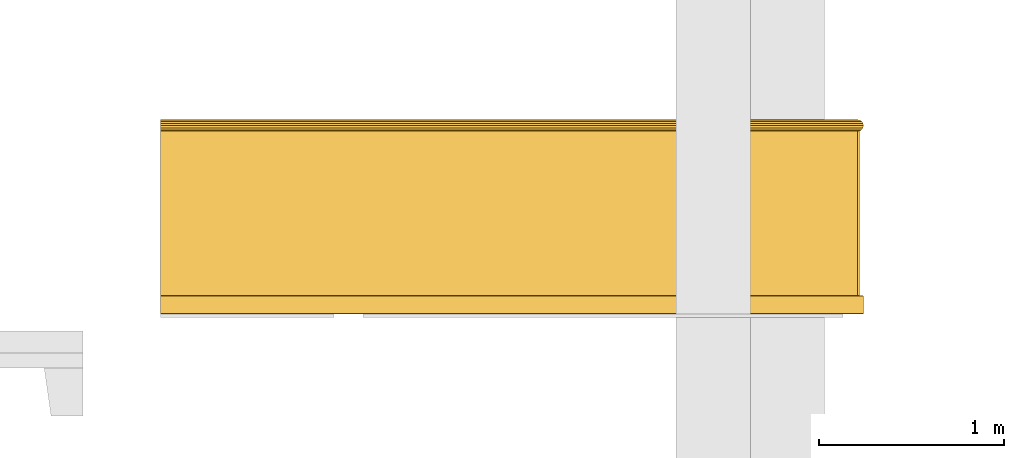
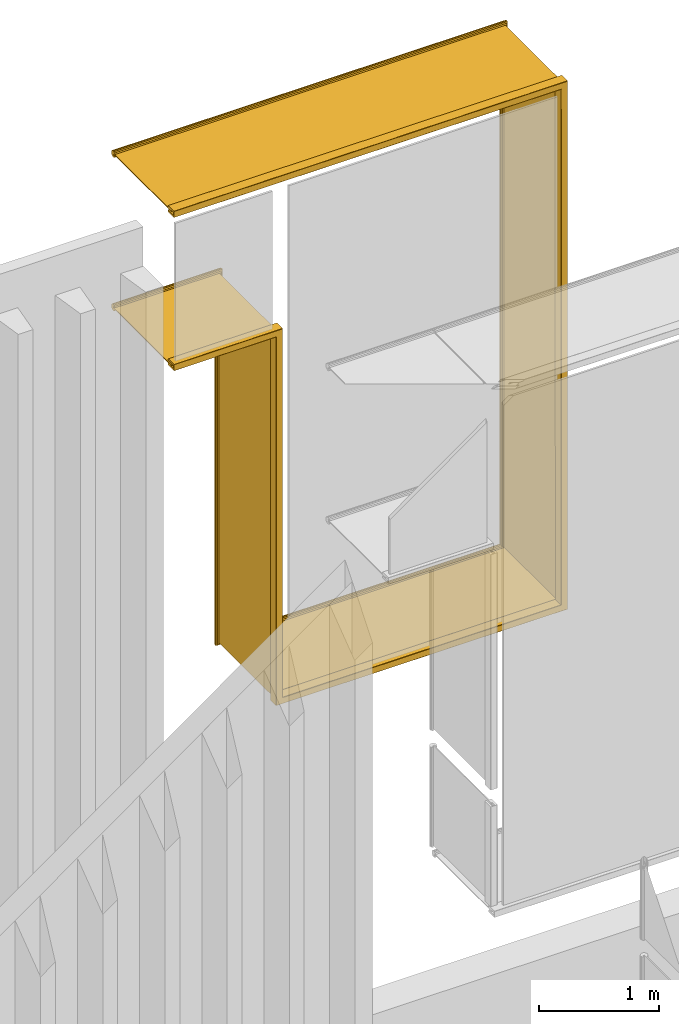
# One storey, part 11 of 15: 1 railing.
"""IFC2X3 building model written with IfcOpenShell, lengths in metres."""

from ifc_helpers import new_model, entity, si_unit, converted_unit, derived_unit, money_unit, direction, frame, origin_with_axes, place, context, subcontext, project, spatial, faceted_brep, material, type_object, element, save


model = new_model("IFC2X3")

# Units and contexts
model_context = context("Model", 3, precision=1e-05, world=origin_with_axes(), true_north=direction((0.0, 1.0)))
body_context = subcontext(model_context, "Body", "Model", "MODEL_VIEW", scale=1.0)
ifc_project = project(units=[si_unit("LENGTHUNIT", "METRE"), si_unit("AREAUNIT", "SQUARE_METRE"), si_unit("VOLUMEUNIT", "CUBIC_METRE"), si_unit("ABSORBEDDOSEUNIT", "GRAY"), si_unit("AMOUNTOFSUBSTANCEUNIT", "MOLE"), si_unit("DOSEEQUIVALENTUNIT", "SIEVERT"), si_unit("ELECTRICCAPACITANCEUNIT", "FARAD"), si_unit("ELECTRICCHARGEUNIT", "COULOMB"), si_unit("ELECTRICCONDUCTANCEUNIT", "SIEMENS"), si_unit("ELECTRICCURRENTUNIT", "AMPERE"), si_unit("ELECTRICRESISTANCEUNIT", "OHM"), si_unit("ELECTRICVOLTAGEUNIT", "VOLT"), si_unit("ENERGYUNIT", "JOULE"), si_unit("FORCEUNIT", "NEWTON"), si_unit("FREQUENCYUNIT", "HERTZ"), si_unit("ILLUMINANCEUNIT", "LUX"), si_unit("INDUCTANCEUNIT", "HENRY"), si_unit("LUMINOUSFLUXUNIT", "LUMEN"), si_unit("LUMINOUSINTENSITYUNIT", "CANDELA"), si_unit("MAGNETICFLUXDENSITYUNIT", "TESLA"), si_unit("MAGNETICFLUXUNIT", "WEBER"), si_unit("MASSUNIT", "GRAM"), converted_unit("PLANEANGLEUNIT", "degree", entity("IfcReal", 0.0174532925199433), si_unit("PLANEANGLEUNIT", "RADIAN"), dimensions=[0, 0, 0, 0, 0, 0, 0]), si_unit("POWERUNIT", "WATT"), si_unit("PRESSUREUNIT", "PASCAL"), si_unit("RADIOACTIVITYUNIT", "BECQUEREL"), si_unit("SOLIDANGLEUNIT", "STERADIAN"), si_unit("THERMODYNAMICTEMPERATUREUNIT", "KELVIN"), si_unit("TIMEUNIT", "SECOND"), derived_unit("ACCELERATIONUNIT", [(si_unit("LENGTHUNIT", "METRE"), 1), (si_unit("TIMEUNIT", "SECOND"), -2)]), derived_unit("ANGULARVELOCITYUNIT", [(converted_unit("PLANEANGLEUNIT", "degree", entity("IfcReal", 0.0174532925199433), si_unit("PLANEANGLEUNIT", "RADIAN"), dimensions=[0, 0, 0, 0, 0, 0, 0]), 1), (si_unit("TIMEUNIT", "SECOND"), -1)]), derived_unit("CURVATUREUNIT", [(converted_unit("PLANEANGLEUNIT", "degree", entity("IfcReal", 0.0174532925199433), si_unit("PLANEANGLEUNIT", "RADIAN"), dimensions=[0, 0, 0, 0, 0, 0, 0]), 1), (si_unit("LENGTHUNIT", "METRE"), -1)]), derived_unit("DYNAMICVISCOSITYUNIT", [(si_unit("PRESSUREUNIT", "PASCAL"), 1), (si_unit("TIMEUNIT", "SECOND"), 1)]), derived_unit("HEATFLUXDENSITYUNIT", [(si_unit("POWERUNIT", "WATT"), 1), (si_unit("LENGTHUNIT", "METRE"), -2)]), derived_unit("HEATINGVALUEUNIT", [(si_unit("ENERGYUNIT", "JOULE"), 1), (si_unit("MASSUNIT", "GRAM"), -1)]), derived_unit("INTEGERCOUNTRATEUNIT", [(si_unit("TIMEUNIT", "SECOND"), -1)]), derived_unit("IONCONCENTRATIONUNIT", [(si_unit("MASSUNIT", "GRAM"), 1), (si_unit("VOLUMEUNIT", "CUBIC_METRE"), -1)]), derived_unit("ISOTHERMALMOISTURECAPACITYUNIT", [(si_unit("VOLUMEUNIT", "CUBIC_METRE"), 1), (si_unit("MASSUNIT", "GRAM"), -1)]), derived_unit("KINEMATICVISCOSITYUNIT", [(si_unit("AREAUNIT", "SQUARE_METRE"), 1), (si_unit("TIMEUNIT", "SECOND"), -1)]), derived_unit("LINEARFORCEUNIT", [(si_unit("FORCEUNIT", "NEWTON"), 1), (si_unit("LENGTHUNIT", "METRE"), -1)]), derived_unit("LINEARMOMENTUNIT", [(si_unit("FORCEUNIT", "NEWTON"), 1), (si_unit("LENGTHUNIT", "METRE"), -1)]), derived_unit("LINEARSTIFFNESSUNIT", [(si_unit("FORCEUNIT", "NEWTON"), 1), (si_unit("LENGTHUNIT", "METRE"), -1)]), derived_unit("LINEARVELOCITYUNIT", [(si_unit("LENGTHUNIT", "METRE"), 1), (si_unit("TIMEUNIT", "SECOND"), -1)]), derived_unit("LUMINOUSINTENSITYDISTRIBUTIONUNIT", [(si_unit("LUMINOUSINTENSITYUNIT", "CANDELA"), 1), (si_unit("LUMINOUSFLUXUNIT", "LUMEN"), -1)]), derived_unit("MASSDENSITYUNIT", [(si_unit("MASSUNIT", "GRAM"), 1), (si_unit("VOLUMEUNIT", "CUBIC_METRE"), -1)]), derived_unit("MASSFLOWRATEUNIT", [(si_unit("MASSUNIT", "GRAM"), 1), (si_unit("TIMEUNIT", "SECOND"), -1)]), derived_unit("MASSPERLENGTHUNIT", [(si_unit("MASSUNIT", "GRAM"), 1), (si_unit("LENGTHUNIT", "METRE"), -1)]), derived_unit("MODULUSOFELASTICITYUNIT", [(si_unit("FORCEUNIT", "NEWTON"), 1), (si_unit("AREAUNIT", "SQUARE_METRE"), -1)]), derived_unit("MODULUSOFLINEARSUBGRADEREACTIONUNIT", [(si_unit("FORCEUNIT", "NEWTON"), 1), (si_unit("LENGTHUNIT", "METRE"), -2)]), derived_unit("MODULUSOFROTATIONALSUBGRADEREACTIONUNIT", [(si_unit("FORCEUNIT", "NEWTON"), 1), (si_unit("LENGTHUNIT", "METRE"), 1)]), derived_unit("MODULUSOFSUBGRADEREACTIONUNIT", [(si_unit("FORCEUNIT", "NEWTON"), 1), (si_unit("VOLUMEUNIT", "CUBIC_METRE"), -1)]), derived_unit("MOISTUREDIFFUSIVITYUNIT", [(si_unit("VOLUMEUNIT", "CUBIC_METRE"), 1), (si_unit("TIMEUNIT", "SECOND"), -1)]), derived_unit("MOLECULARWEIGHTUNIT", [(si_unit("MASSUNIT", "GRAM"), 1), (si_unit("AMOUNTOFSUBSTANCEUNIT", "MOLE"), -1)]), derived_unit("PLANARFORCEUNIT", [(si_unit("FORCEUNIT", "NEWTON"), 1), (si_unit("LENGTHUNIT", "METRE"), -2)]), derived_unit("ROTATIONALFREQUENCYUNIT", [(si_unit("TIMEUNIT", "SECOND"), -1)]), derived_unit("ROTATIONALMASSUNIT", [(si_unit("MASSUNIT", "GRAM"), 1), (si_unit("LENGTHUNIT", "METRE"), 2)]), derived_unit("ROTATIONALSTIFFNESSUNIT", [(si_unit("FORCEUNIT", "NEWTON"), 1), (si_unit("LENGTHUNIT", "METRE"), 1), (converted_unit("PLANEANGLEUNIT", "degree", entity("IfcReal", 0.0174532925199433), si_unit("PLANEANGLEUNIT", "RADIAN"), dimensions=[0, 0, 0, 0, 0, 0, 0]), -1)]), derived_unit("SECTIONAREAINTEGRALUNIT", [(si_unit("LENGTHUNIT", "METRE"), 5)]), derived_unit("SECTIONMODULUSUNIT", [(si_unit("LENGTHUNIT", "METRE"), 3)]), derived_unit("SHEARMODULUSUNIT", [(si_unit("FORCEUNIT", "NEWTON"), 1), (si_unit("AREAUNIT", "SQUARE_METRE"), -1)]), derived_unit("SOUNDPOWERUNIT", [(si_unit("ENERGYUNIT", "JOULE"), 1), (si_unit("TIMEUNIT", "SECOND"), -1)]), derived_unit("SPECIFICHEATCAPACITYUNIT", [(si_unit("FORCEUNIT", "NEWTON"), 1), (si_unit("MASSUNIT", "GRAM"), -1), (si_unit("THERMODYNAMICTEMPERATUREUNIT", "KELVIN"), -1)]), derived_unit("TEMPERATUREGRADIENTUNIT", [(si_unit("THERMODYNAMICTEMPERATUREUNIT", "KELVIN"), 1), (si_unit("LENGTHUNIT", "METRE"), -1)]), derived_unit("THERMALADMITTANCEUNIT", [(si_unit("POWERUNIT", "WATT"), 1), (si_unit("AREAUNIT", "SQUARE_METRE"), -1), (si_unit("THERMODYNAMICTEMPERATUREUNIT", "KELVIN"), -1)]), derived_unit("THERMALCONDUCTANCEUNIT", [(si_unit("POWERUNIT", "WATT"), 1), (si_unit("LENGTHUNIT", "METRE"), -1), (si_unit("THERMODYNAMICTEMPERATUREUNIT", "KELVIN"), -1)]), derived_unit("THERMALEXPANSIONCOEFFICIENTUNIT", [(si_unit("THERMODYNAMICTEMPERATUREUNIT", "KELVIN"), -1)]), derived_unit("THERMALRESISTANCEUNIT", [(si_unit("AREAUNIT", "SQUARE_METRE"), 1), (si_unit("POWERUNIT", "WATT"), -1)]), derived_unit("THERMALTRANSMITTANCEUNIT", [(si_unit("POWERUNIT", "WATT"), 1), (si_unit("AREAUNIT", "SQUARE_METRE"), -1), (si_unit("THERMODYNAMICTEMPERATUREUNIT", "KELVIN"), -1)]), derived_unit("TORQUEUNIT", [(si_unit("FORCEUNIT", "NEWTON"), 1), (si_unit("LENGTHUNIT", "METRE"), 1)]), derived_unit("VAPORPERMEABILITYUNIT", [(si_unit("MASSUNIT", "GRAM"), 1), (si_unit("TIMEUNIT", "SECOND"), -1)]), derived_unit("VOLUMETRICFLOWRATEUNIT", [(si_unit("VOLUMEUNIT", "CUBIC_METRE"), 1), (si_unit("TIMEUNIT", "SECOND"), -1)]), derived_unit("WARPINGCONSTANTUNIT", [(si_unit("LENGTHUNIT", "METRE"), 6)]), derived_unit("WARPINGMOMENTUNIT", [(si_unit("FORCEUNIT", "NEWTON"), 1), (si_unit("LENGTHUNIT", "METRE"), 2)]), money_unit("GBP")], contexts=[model_context])

# Site, building, storey
site_placement = place(None, origin_with_axes())
site = spatial("IfcSite", under=ifc_project, at=site_placement, Name="Site", CompositionType="ELEMENT")
building_placement = place(site_placement, origin_with_axes())
building = spatial("IfcBuilding", under=site, at=building_placement, Name="Building01", CompositionType="ELEMENT")
storey_placement = place(building_placement, origin_with_axes())
storey = spatial("IfcBuildingStorey", under=building, at=storey_placement, Name="GF", CompositionType="ELEMENT", Elevation=0.0)

# Railing
ifc_material = material(Name="A_BSUK_Steel_Miscellaneous")
railing_type = type_object("IfcRailingType", Name="A-RailingGlassPanel-1050mm", PredefinedType="NOTDEFINED")
railing_placement = place(storey_placement, frame((14.9, 12.171013, 26.411335), z_axis=(0.0, 1.0, 0.0), x_axis=(0.0, 0.0, 1.0)))
element("IfcRailing", 1, at=railing_placement, inside=storey, type_object=railing_type, material=ifc_material, Name="A-RailingGlassPanel-1050mm", ObjectType="A-RailingGlassPanel-1050mm", PredefinedType="HANDRAIL", context=body_context, shape_type="Brep", body=[
    faceted_brep([(0.0125, 3.776081, 1.0125), (-0.0125, 3.751081, 1.0125), (-0.0125, 3.751081, 0.9875), (-0.023022, 3.740559, 0.99456), (-0.030045, 3.733536, 1.005108), (-0.0325, 3.731081, 1.017539), (-0.030015, 3.733566, 1.029964), (-0.022967, 3.740614, 1.040495), (-0.012428, 3.751153, 1.04753), (0.0, 3.763581, 1.05), (0.012428, 3.776009, 1.04753), (0.022967, 3.786548, 1.040495), (0.030015, 3.793596, 1.029964), (0.0325, 3.796081, 1.017539), (0.030045, 3.793625, 1.005108), (0.023022, 3.786603, 0.99456), (0.0125, 3.776081, 0.9875), (0.023022, 0.0, 0.99456), (0.0125, 0.0, 0.9875), (0.030045, 0.0, 1.005108), (0.0325, 0.0, 1.017539), (0.030015, 0.0, 1.029964), (0.022967, 0.0, 1.040495), (0.012428, 0.0, 1.04753), (0.0, 0.0, 1.05), (-0.012428, 0.0, 1.04753), (-0.022967, 0.0, 1.040495), (-0.030015, 0.0, 1.029964), (-0.0325, 0.0, 1.017539), (-0.030045, 0.0, 1.005108), (-0.023022, 0.0, 0.99456), (-0.0125, 0.0, 0.9875), (-0.0125, 0.0, 1.0125), (0.0125, 0.0, 1.0125)], [[[0, 1, 2, 3, 4, 5, 6, 7, 8, 9, 10, 11, 12, 13, 14, 15, 16]], [[15, 17, 18, 16]], [[14, 19, 17, 15]], [[13, 20, 19, 14]], [[12, 21, 20, 13]], [[11, 22, 21, 12]], [[10, 23, 22, 11]], [[9, 24, 23, 10]], [[8, 25, 24, 9]], [[7, 26, 25, 8]], [[6, 27, 26, 7]], [[5, 28, 27, 6]], [[4, 29, 28, 5]], [[3, 30, 29, 4]], [[2, 31, 30, 3]], [[1, 32, 31, 2]], [[0, 33, 32, 1]], [[16, 18, 33, 0]], [[18, 17, 19, 20, 21, 22, 23, 24, 25, 26, 27, 28, 29, 30, 31, 32, 33]]]),
    faceted_brep([(-5.333701, 3.776081, 1.0125), (-5.308701, 3.751081, 1.0125), (-5.308701, 3.751081, 0.9875), (-5.298179, 3.740559, 0.99456), (-5.291156, 3.733536, 1.005108), (-5.288701, 3.731081, 1.017539), (-5.291186, 3.733566, 1.029964), (-5.298234, 3.740614, 1.040495), (-5.308773, 3.751153, 1.04753), (-5.321201, 3.763581, 1.05), (-5.333629, 3.776009, 1.04753), (-5.344168, 3.786548, 1.040495), (-5.351216, 3.793596, 1.029964), (-5.353701, 3.796081, 1.017539), (-5.351246, 3.793625, 1.005108), (-5.344223, 3.786603, 0.99456), (-5.333701, 3.776081, 0.9875), (0.0125, 3.776081, 0.9875), (0.023022, 3.786603, 0.99456), (0.030045, 3.793625, 1.005108), (0.0325, 3.796081, 1.017539), (0.030015, 3.793596, 1.029964), (0.022967, 3.786548, 1.040495), (0.012428, 3.776009, 1.04753), (0.0, 3.763581, 1.05), (-0.012428, 3.751153, 1.04753), (-0.022967, 3.740614, 1.040495), (-0.030015, 3.733566, 1.029964), (-0.0325, 3.731081, 1.017539), (-0.030045, 3.733536, 1.005108), (-0.023022, 3.740559, 0.99456), (-0.0125, 3.751081, 0.9875), (-0.0125, 3.751081, 1.0125), (0.0125, 3.776081, 1.0125)], [[[0, 1, 2, 3, 4, 5, 6, 7, 8, 9, 10, 11, 12, 13, 14, 15, 16]], [[17, 18, 19, 20, 21, 22, 23, 24, 25, 26, 27, 28, 29, 30, 31, 32, 33]], [[30, 3, 2, 31]], [[29, 4, 3, 30]], [[28, 5, 4, 29]], [[27, 6, 5, 28]], [[26, 7, 6, 27]], [[25, 8, 7, 26]], [[24, 9, 8, 25]], [[23, 10, 9, 24]], [[22, 11, 10, 23]], [[21, 12, 11, 22]], [[20, 13, 12, 21]], [[19, 14, 13, 20]], [[18, 15, 14, 19]], [[17, 16, 15, 18]], [[1, 32, 31, 2]], [[0, 33, 32, 1]], [[16, 17, 33, 0]]]),
    faceted_brep([(-5.333701, 1.003423, 1.0125), (-5.308701, 1.028423, 1.0125), (-5.308701, 1.028423, 0.9875), (-5.298179, 1.038945, 0.99456), (-5.291156, 1.045967, 1.005108), (-5.288701, 1.048423, 1.017539), (-5.291186, 1.045938, 1.029964), (-5.298234, 1.03889, 1.040495), (-5.308773, 1.028351, 1.04753), (-5.321201, 1.015923, 1.05), (-5.333629, 1.003495, 1.04753), (-5.344168, 0.992956, 1.040495), (-5.351216, 0.985908, 1.029964), (-5.353701, 0.983423, 1.017539), (-5.351246, 0.985878, 1.005108), (-5.344223, 0.992901, 0.99456), (-5.333701, 1.003423, 0.9875), (-5.333701, 3.776081, 0.9875), (-5.344223, 3.786603, 0.99456), (-5.351246, 3.793625, 1.005108), (-5.353701, 3.796081, 1.017539), (-5.351216, 3.793596, 1.029964), (-5.344168, 3.786548, 1.040495), (-5.333629, 3.776009, 1.04753), (-5.321201, 3.763581, 1.05), (-5.308773, 3.751153, 1.04753), (-5.298234, 3.740614, 1.040495), (-5.291186, 3.733566, 1.029964), (-5.288701, 3.731081, 1.017539), (-5.291156, 3.733536, 1.005108), (-5.298179, 3.740559, 0.99456), (-5.308701, 3.751081, 0.9875), (-5.308701, 3.751081, 1.0125), (-5.333701, 3.776081, 1.0125)], [[[0, 1, 2, 3, 4, 5, 6, 7, 8, 9, 10, 11, 12, 13, 14, 15, 16]], [[17, 18, 19, 20, 21, 22, 23, 24, 25, 26, 27, 28, 29, 30, 31, 32, 33]], [[30, 3, 2, 31]], [[29, 4, 3, 30]], [[28, 5, 4, 29]], [[27, 6, 5, 28]], [[26, 7, 6, 27]], [[25, 8, 7, 26]], [[24, 9, 8, 25]], [[23, 10, 9, 24]], [[22, 11, 10, 23]], [[21, 12, 11, 22]], [[20, 13, 12, 21]], [[19, 14, 13, 20]], [[18, 15, 14, 19]], [[17, 16, 15, 18]], [[1, 32, 31, 2]], [[0, 33, 32, 1]], [[16, 17, 33, 0]]]),
    faceted_brep([(-1.5753, 1.003423, 1.0125), (-1.5503, 1.028423, 1.0125), (-1.5503, 1.028423, 0.9875), (-1.539778, 1.038945, 0.99456), (-1.532755, 1.045967, 1.005108), (-1.5303, 1.048423, 1.017539), (-1.532785, 1.045938, 1.029964), (-1.539833, 1.03889, 1.040495), (-1.550372, 1.028351, 1.04753), (-1.5628, 1.015923, 1.05), (-1.575228, 1.003495, 1.04753), (-1.585767, 0.992956, 1.040495), (-1.592815, 0.985908, 1.029964), (-1.5953, 0.983423, 1.017539), (-1.592845, 0.985878, 1.005108), (-1.585822, 0.992901, 0.99456), (-1.5753, 1.003423, 0.9875), (-5.333701, 1.003423, 0.9875), (-5.344223, 0.992901, 0.99456), (-5.351246, 0.985878, 1.005108), (-5.353701, 0.983423, 1.017539), (-5.351216, 0.985908, 1.029964), (-5.344168, 0.992956, 1.040495), (-5.333629, 1.003495, 1.04753), (-5.321201, 1.015923, 1.05), (-5.308773, 1.028351, 1.04753), (-5.298234, 1.03889, 1.040495), (-5.291186, 1.045938, 1.029964), (-5.288701, 1.048423, 1.017539), (-5.291156, 1.045967, 1.005108), (-5.298179, 1.038945, 0.99456), (-5.308701, 1.028423, 0.9875), (-5.308701, 1.028423, 1.0125), (-5.333701, 1.003423, 1.0125)], [[[0, 1, 2, 3, 4, 5, 6, 7, 8, 9, 10, 11, 12, 13, 14, 15, 16]], [[17, 18, 19, 20, 21, 22, 23, 24, 25, 26, 27, 28, 29, 30, 31, 32, 33]], [[30, 3, 2, 31]], [[29, 4, 3, 30]], [[28, 5, 4, 29]], [[27, 6, 5, 28]], [[26, 7, 6, 27]], [[25, 8, 7, 26]], [[24, 9, 8, 25]], [[23, 10, 9, 24]], [[22, 11, 10, 23]], [[21, 12, 11, 22]], [[20, 13, 12, 21]], [[19, 14, 13, 20]], [[18, 15, 14, 19]], [[17, 16, 15, 18]], [[1, 32, 31, 2]], [[0, 33, 32, 1]], [[16, 17, 33, 0]]]),
    faceted_brep([(-1.5753, 1.003423, 0.9875), (-1.585822, 0.992901, 0.99456), (-1.592845, 0.985878, 1.005108), (-1.5953, 0.983423, 1.017539), (-1.592815, 0.985908, 1.029964), (-1.585767, 0.992956, 1.040495), (-1.575228, 1.003495, 1.04753), (-1.5628, 1.015923, 1.05), (-1.550372, 1.028351, 1.04753), (-1.539833, 1.03889, 1.040495), (-1.532785, 1.045938, 1.029964), (-1.5303, 1.048423, 1.017539), (-1.532755, 1.045967, 1.005108), (-1.539778, 1.038945, 0.99456), (-1.5503, 1.028423, 0.9875), (-1.5503, 1.028423, 1.0125), (-1.5753, 1.003423, 1.0125), (-1.539778, 0.0, 0.99456), (-1.5503, 0.0, 0.9875), (-1.532755, 0.0, 1.005108), (-1.5303, 0.0, 1.017539), (-1.532785, 0.0, 1.029964), (-1.539833, 0.0, 1.040495), (-1.550372, 0.0, 1.04753), (-1.5628, 0.0, 1.05), (-1.575228, 0.0, 1.04753), (-1.585767, 0.0, 1.040495), (-1.592815, 0.0, 1.029964), (-1.5953, 0.0, 1.017539), (-1.592845, 0.0, 1.005108), (-1.585822, 0.0, 0.99456), (-1.5753, 0.0, 0.9875), (-1.5503, 0.0, 1.0125), (-1.5753, 0.0, 1.0125)], [[[0, 1, 2, 3, 4, 5, 6, 7, 8, 9, 10, 11, 12, 13, 14, 15, 16]], [[13, 17, 18, 14]], [[12, 19, 17, 13]], [[11, 20, 19, 12]], [[10, 21, 20, 11]], [[9, 22, 21, 10]], [[8, 23, 22, 9]], [[7, 24, 23, 8]], [[6, 25, 24, 7]], [[5, 26, 25, 6]], [[4, 27, 26, 5]], [[3, 28, 27, 4]], [[2, 29, 28, 3]], [[1, 30, 29, 2]], [[0, 31, 30, 1]], [[14, 18, 32, 15]], [[15, 32, 33, 16]], [[16, 33, 31, 0]], [[33, 32, 18, 17, 19, 20, 21, 22, 23, 24, 25, 26, 27, 28, 29, 30, 31]]]),
    faceted_brep([(-0.0295, 3.734081, 0.099925), (-0.0295, 0.0, 0.099925), (-0.0125, 0.0, 0.099925), (-0.0125, 3.751081, 0.099925), (-0.030648, 3.732933, 0.099697), (-0.030648, 0.0, 0.099697), (-0.031253, 3.732328, 0.098792), (-0.031621, 0.0, 0.099046), (-0.031895, 3.731685, 0.09783), (-0.032272, 0.0, 0.098073), (-0.0325, 3.731081, 0.096925), (-0.0325, 0.0, 0.096925), (-0.0325, 3.731081, 0.003), (-0.0325, 0.0, 0.003), (-0.0125, 3.751081, 0.01), (0.0125, 3.776081, 0.01), (0.0125, 3.776081, 0.099925), (0.0295, 3.793081, 0.099925), (0.030409, 3.79399, 0.099317), (0.031362, 3.794943, 0.098681), (0.032272, 3.795852, 0.098073), (0.0325, 3.796081, 0.096925), (0.0325, 3.796081, 0.003), (0.031895, 3.795476, 0.002095), (0.031253, 3.794834, 0.001133), (0.030648, 3.794229, 0.000228), (0.0295, 3.793081, 0.0), (-0.0295, 3.734081, 0.0), (-0.030409, 3.733171, 0.000608), (-0.031362, 3.732218, 0.001244), (-0.032272, 3.731309, 0.001852), (0.0295, 0.0, 0.0), (0.030648, 0.0, 0.000228), (0.031621, 0.0, 0.000879), (0.032272, 0.0, 0.001852), (0.0325, 0.0, 0.003), (0.0325, 0.0, 0.096925), (0.032272, 0.0, 0.098073), (0.031621, 0.0, 0.099046), (0.030648, 0.0, 0.099697), (0.0295, 0.0, 0.099925), (0.0125, 0.0, 0.099925), (0.0125, 0.0, 0.01), (-0.0125, 0.0, 0.01), (-0.032272, 0.0, 0.001852), (-0.031621, 0.0, 0.000879), (-0.030648, 0.0, 0.000228), (-0.0295, 0.0, 0.0)], [[[0, 1, 2, 3]], [[4, 5, 1, 0]], [[6, 7, 5]], [[8, 9, 7]], [[10, 11, 9]], [[9, 8, 10]], [[7, 6, 8]], [[5, 4, 6]], [[12, 13, 11, 10]], [[14, 15, 16, 17, 18, 19, 20, 21, 22, 23, 24, 25, 26, 27, 28, 29, 30, 12, 10, 8, 6, 4, 0, 3]], [[31, 32, 33, 34, 35, 36, 37, 38, 39, 40, 41, 42, 43, 2, 1, 5, 7, 9, 11, 13, 44, 45, 46, 47]], [[30, 44, 13, 12]], [[30, 29, 45]], [[29, 28, 46]], [[28, 27, 47]], [[47, 46, 28]], [[46, 45, 29]], [[45, 44, 30]], [[26, 31, 47, 27]], [[25, 32, 31, 26]], [[25, 24, 33]], [[24, 23, 34]], [[23, 22, 35]], [[35, 34, 23]], [[34, 33, 24]], [[33, 32, 25]], [[21, 36, 35, 22]], [[20, 37, 36, 21]], [[19, 38, 37]], [[18, 39, 38]], [[17, 40, 39]], [[39, 18, 17]], [[38, 19, 18]], [[37, 20, 19]], [[16, 41, 40, 17]], [[15, 42, 41, 16]], [[14, 43, 42, 15]], [[3, 2, 43, 14]]]),
    faceted_brep([(-5.291701, 3.734081, 0.099925), (-0.0295, 3.734081, 0.099925), (-0.0125, 3.751081, 0.099925), (-5.308701, 3.751081, 0.099925), (-5.288701, 3.731081, 0.096925), (-0.0325, 3.731081, 0.096925), (-0.032272, 3.731309, 0.098073), (-0.031362, 3.732218, 0.098681), (-5.289948, 3.732328, 0.098792), (-0.030409, 3.733171, 0.099317), (-5.290553, 3.732933, 0.099697), (-5.289306, 3.731685, 0.09783), (-5.288701, 3.731081, 0.003), (-0.0325, 3.731081, 0.003), (-5.308701, 3.751081, 0.01), (-5.333701, 3.776081, 0.01), (-5.333701, 3.776081, 0.099925), (-5.350701, 3.793081, 0.099925), (-5.35161, 3.79399, 0.099317), (-5.352563, 3.794943, 0.098681), (-5.353473, 3.795852, 0.098073), (-5.353701, 3.796081, 0.096925), (-5.353701, 3.796081, 0.003), (-5.353096, 3.795476, 0.002095), (-5.352454, 3.794834, 0.001133), (-5.351849, 3.794229, 0.000228), (-5.350701, 3.793081, 0.0), (-5.291701, 3.734081, 0.0), (-5.290792, 3.733171, 0.000608), (-5.289839, 3.732218, 0.001244), (-5.288929, 3.731309, 0.001852), (-0.031895, 3.731685, 0.002095), (-0.031253, 3.732328, 0.001133), (-0.030648, 3.732933, 0.000228), (-0.0295, 3.734081, 0.0), (0.0295, 3.793081, 0.0), (0.030409, 3.79399, 0.000608), (0.031362, 3.794943, 0.001244), (0.032272, 3.795852, 0.001852), (0.0325, 3.796081, 0.003), (0.0325, 3.796081, 0.096925), (0.031895, 3.795476, 0.09783), (0.031253, 3.794834, 0.098792), (0.030648, 3.794229, 0.099697), (0.0295, 3.793081, 0.099925), (0.0125, 3.776081, 0.099925), (0.0125, 3.776081, 0.01), (-0.0125, 3.751081, 0.01)], [[[0, 1, 2, 3]], [[4, 5, 6]], [[6, 7, 8]], [[7, 9, 10]], [[10, 9, 1]], [[1, 0, 10]], [[10, 8, 7]], [[8, 11, 6]], [[6, 11, 4]], [[12, 13, 5, 4]], [[14, 15, 16, 17, 18, 19, 20, 21, 22, 23, 24, 25, 26, 27, 28, 29, 30, 12, 4, 11, 8, 10, 0, 3]], [[2, 1, 9, 7, 6, 5, 13, 31, 32, 33, 34, 35, 36, 37, 38, 39, 40, 41, 42, 43, 44, 45, 46, 47]], [[33, 28, 27]], [[29, 28, 33]], [[30, 29, 32]], [[13, 12, 30]], [[30, 31, 13]], [[32, 31, 30]], [[33, 32, 29]], [[27, 34, 33]], [[26, 35, 34, 27]], [[23, 22, 39]], [[37, 24, 23]], [[36, 25, 24]], [[26, 25, 36]], [[36, 35, 26]], [[24, 37, 36]], [[23, 38, 37]], [[39, 38, 23]], [[21, 40, 39, 22]], [[44, 43, 18]], [[18, 43, 42]], [[19, 42, 41]], [[41, 40, 21]], [[21, 20, 41]], [[41, 20, 19]], [[42, 19, 18]], [[18, 17, 44]], [[16, 45, 44, 17]], [[15, 46, 45, 16]], [[14, 47, 46, 15]], [[3, 2, 47, 14]]]),
    faceted_brep([(-5.291701, 1.045423, 0.099925), (-5.291701, 3.734081, 0.099925), (-5.308701, 3.751081, 0.099925), (-5.308701, 1.028423, 0.099925), (-5.288701, 1.048423, 0.096925), (-5.288701, 3.731081, 0.096925), (-5.288929, 3.731309, 0.098073), (-5.289839, 3.732218, 0.098681), (-5.289948, 1.047176, 0.098792), (-5.290792, 3.733171, 0.099317), (-5.290553, 1.046571, 0.099697), (-5.289306, 1.047818, 0.09783), (-5.288701, 1.048423, 0.003), (-5.288701, 3.731081, 0.003), (-5.308701, 1.028423, 0.01), (-5.333701, 1.003423, 0.01), (-5.333701, 1.003423, 0.099925), (-5.350701, 0.986423, 0.099925), (-5.35161, 0.985514, 0.099317), (-5.352563, 0.98456, 0.098681), (-5.353473, 0.983651, 0.098073), (-5.353701, 0.983423, 0.096925), (-5.353701, 0.983423, 0.003), (-5.353096, 0.984028, 0.002095), (-5.352454, 0.98467, 0.001133), (-5.351849, 0.985275, 0.000228), (-5.350701, 0.986423, 0.0), (-5.291701, 1.045423, 0.0), (-5.290792, 1.046332, 0.000608), (-5.289839, 1.047285, 0.001244), (-5.288929, 1.048194, 0.001852), (-5.289306, 3.731685, 0.002095), (-5.289948, 3.732328, 0.001133), (-5.290553, 3.732933, 0.000228), (-5.291701, 3.734081, 0.0), (-5.350701, 3.793081, 0.0), (-5.35161, 3.79399, 0.000608), (-5.352563, 3.794943, 0.001244), (-5.353473, 3.795852, 0.001852), (-5.353701, 3.796081, 0.003), (-5.353701, 3.796081, 0.096925), (-5.353096, 3.795476, 0.09783), (-5.352454, 3.794834, 0.098792), (-5.351849, 3.794229, 0.099697), (-5.350701, 3.793081, 0.099925), (-5.333701, 3.776081, 0.099925), (-5.333701, 3.776081, 0.01), (-5.308701, 3.751081, 0.01)], [[[0, 1, 2, 3]], [[4, 5, 6]], [[6, 7, 8]], [[7, 9, 10]], [[10, 9, 1]], [[1, 0, 10]], [[10, 8, 7]], [[8, 11, 6]], [[6, 11, 4]], [[12, 13, 5, 4]], [[14, 15, 16, 17, 18, 19, 20, 21, 22, 23, 24, 25, 26, 27, 28, 29, 30, 12, 4, 11, 8, 10, 0, 3]], [[2, 1, 9, 7, 6, 5, 13, 31, 32, 33, 34, 35, 36, 37, 38, 39, 40, 41, 42, 43, 44, 45, 46, 47]], [[33, 28, 27]], [[29, 28, 33]], [[30, 29, 32]], [[13, 12, 30]], [[30, 31, 13]], [[32, 31, 30]], [[33, 32, 29]], [[27, 34, 33]], [[26, 35, 34, 27]], [[23, 22, 39]], [[37, 24, 23]], [[36, 25, 24]], [[26, 25, 36]], [[36, 35, 26]], [[24, 37, 36]], [[23, 38, 37]], [[39, 38, 23]], [[21, 40, 39, 22]], [[44, 43, 18]], [[18, 43, 42]], [[19, 42, 41]], [[41, 40, 21]], [[21, 20, 41]], [[41, 20, 19]], [[42, 19, 18]], [[18, 17, 44]], [[16, 45, 44, 17]], [[15, 46, 45, 16]], [[14, 47, 46, 15]], [[3, 2, 47, 14]]]),
    faceted_brep([(-1.5333, 1.045423, 0.099925), (-5.291701, 1.045423, 0.099925), (-5.308701, 1.028423, 0.099925), (-1.5503, 1.028423, 0.099925), (-1.530905, 1.047818, 0.09783), (-1.5303, 1.048423, 0.096925), (-5.288701, 1.048423, 0.096925), (-5.288929, 1.048194, 0.098073), (-5.289839, 1.047285, 0.098681), (-1.531547, 1.047176, 0.098792), (-5.290792, 1.046332, 0.099317), (-1.532152, 1.046571, 0.099697), (-1.5303, 1.048423, 0.003), (-5.288701, 1.048423, 0.003), (-1.5503, 1.028423, 0.01), (-1.5753, 1.003423, 0.01), (-1.5753, 1.003423, 0.099925), (-1.5923, 0.986423, 0.099925), (-1.593209, 0.985514, 0.099317), (-1.594162, 0.98456, 0.098681), (-1.595072, 0.983651, 0.098073), (-1.5953, 0.983423, 0.096925), (-1.5953, 0.983423, 0.003), (-1.594695, 0.984028, 0.002095), (-1.594053, 0.98467, 0.001133), (-1.593448, 0.985275, 0.000228), (-1.5923, 0.986423, 0.0), (-1.5333, 1.045423, 0.0), (-1.532391, 1.046332, 0.000608), (-1.531438, 1.047285, 0.001244), (-1.530528, 1.048194, 0.001852), (-5.289306, 1.047818, 0.002095), (-5.289948, 1.047176, 0.001133), (-5.290553, 1.046571, 0.000228), (-5.291701, 1.045423, 0.0), (-5.350701, 0.986423, 0.0), (-5.35161, 0.985514, 0.000608), (-5.352563, 0.98456, 0.001244), (-5.353473, 0.983651, 0.001852), (-5.353701, 0.983423, 0.003), (-5.353701, 0.983423, 0.096925), (-5.353096, 0.984028, 0.09783), (-5.352454, 0.98467, 0.098792), (-5.351849, 0.985275, 0.099697), (-5.350701, 0.986423, 0.099925), (-5.333701, 1.003423, 0.099925), (-5.333701, 1.003423, 0.01), (-5.308701, 1.028423, 0.01)], [[[0, 1, 2, 3]], [[4, 5, 6]], [[7, 8, 9]], [[8, 10, 11]], [[0, 11, 10]], [[10, 1, 0]], [[11, 9, 8]], [[9, 4, 7]], [[6, 7, 4]], [[12, 13, 6, 5]], [[14, 15, 16, 17, 18, 19, 20, 21, 22, 23, 24, 25, 26, 27, 28, 29, 30, 12, 5, 4, 9, 11, 0, 3]], [[2, 1, 10, 8, 7, 6, 13, 31, 32, 33, 34, 35, 36, 37, 38, 39, 40, 41, 42, 43, 44, 45, 46, 47]], [[33, 28, 27]], [[28, 33, 32]], [[29, 32, 31]], [[13, 12, 30]], [[30, 31, 13]], [[31, 30, 29]], [[32, 29, 28]], [[27, 34, 33]], [[26, 35, 34, 27]], [[22, 39, 38]], [[37, 24, 23]], [[36, 25, 24]], [[25, 36, 35]], [[35, 26, 25]], [[24, 37, 36]], [[23, 38, 37]], [[38, 23, 22]], [[21, 40, 39, 22]], [[44, 43, 18]], [[19, 18, 43]], [[20, 19, 42]], [[41, 40, 21]], [[21, 20, 41]], [[42, 41, 20]], [[43, 42, 19]], [[18, 17, 44]], [[16, 45, 44, 17]], [[15, 46, 45, 16]], [[14, 47, 46, 15]], [[3, 2, 47, 14]]]),
    faceted_brep([(-1.5503, 1.028423, 0.099925), (-1.5503, 0.0, 0.099925), (-1.5333, 0.0, 0.099925), (-1.5333, 1.045423, 0.099925), (-1.530528, 1.048194, 0.098073), (-1.530528, 0.0, 0.098073), (-1.5303, 0.0, 0.096925), (-1.5303, 1.048423, 0.096925), (-1.531438, 1.047285, 0.098681), (-1.531179, 0.0, 0.099046), (-1.532391, 1.046332, 0.099317), (-1.532152, 0.0, 0.099697), (-1.5303, 0.0, 0.003), (-1.5303, 1.048423, 0.003), (-1.530905, 1.047818, 0.002095), (-1.531547, 1.047176, 0.001133), (-1.532152, 1.046571, 0.000228), (-1.5333, 1.045423, 0.0), (-1.5923, 0.986423, 0.0), (-1.593209, 0.985514, 0.000608), (-1.594162, 0.98456, 0.001244), (-1.595072, 0.983651, 0.001852), (-1.5953, 0.983423, 0.003), (-1.5953, 0.983423, 0.096925), (-1.594695, 0.984028, 0.09783), (-1.594053, 0.98467, 0.098792), (-1.593448, 0.985275, 0.099697), (-1.5923, 0.986423, 0.099925), (-1.5753, 1.003423, 0.099925), (-1.5753, 1.003423, 0.01), (-1.5503, 1.028423, 0.01), (-1.5333, 0.0, 0.0), (-1.532152, 0.0, 0.000228), (-1.531179, 0.0, 0.000879), (-1.530528, 0.0, 0.001852), (-1.5503, 0.0, 0.01), (-1.5753, 0.0, 0.01), (-1.5753, 0.0, 0.099925), (-1.5923, 0.0, 0.099925), (-1.593448, 0.0, 0.099697), (-1.594421, 0.0, 0.099046), (-1.595072, 0.0, 0.098073), (-1.5953, 0.0, 0.096925), (-1.5953, 0.0, 0.003), (-1.595072, 0.0, 0.001852), (-1.594421, 0.0, 0.000879), (-1.593448, 0.0, 0.000228), (-1.5923, 0.0, 0.0)], [[[0, 1, 2, 3]], [[4, 5, 6, 7]], [[8, 9, 5]], [[10, 11, 9]], [[3, 2, 11]], [[11, 10, 3]], [[9, 8, 10]], [[5, 4, 8]], [[7, 6, 12, 13]], [[0, 3, 10, 8, 4, 7, 13, 14, 15, 16, 17, 18, 19, 20, 21, 22, 23, 24, 25, 26, 27, 28, 29, 30]], [[31, 32, 33, 34, 12, 6, 5, 9, 11, 2, 1, 35, 36, 37, 38, 39, 40, 41, 42, 43, 44, 45, 46, 47]], [[16, 32, 31, 17]], [[16, 15, 33]], [[15, 14, 34]], [[14, 13, 12]], [[12, 34, 14]], [[34, 33, 15]], [[33, 32, 16]], [[17, 31, 47, 18]], [[21, 44, 43, 22]], [[21, 20, 45]], [[20, 19, 46]], [[19, 18, 47]], [[47, 46, 19]], [[46, 45, 20]], [[45, 44, 21]], [[22, 43, 42, 23]], [[26, 39, 38, 27]], [[25, 40, 39]], [[24, 41, 40]], [[23, 42, 41]], [[41, 24, 23]], [[40, 25, 24]], [[39, 26, 25]], [[27, 38, 37, 28]], [[28, 37, 36, 29]], [[29, 36, 35, 30]], [[30, 35, 1, 0]]]),
    faceted_brep([(0.0, 0.0, 0.05), (0.0, 0.0, 1.025), (0.0, 1.254527, 1.025), (0.0, 1.254527, 0.05), (0.01, 1.254527, 0.05), (0.01, 1.254527, 1.025), (0.01, 0.0, 1.025), (0.01, 0.0, 0.05)], [[[0, 1, 2, 3]], [[4, 5, 6, 7]], [[0, 7, 6, 1]], [[1, 6, 5, 2]], [[2, 5, 4, 3]], [[3, 4, 7, 0]]]),
    faceted_brep([(0.0, 1.254527, 0.05), (0.0, 1.254527, 1.025), (0.0, 2.509054, 1.025), (0.0, 2.509054, 0.05), (0.01, 2.509054, 0.05), (0.01, 2.509054, 1.025), (0.01, 1.254527, 1.025), (0.01, 1.254527, 0.05)], [[[0, 1, 2, 3]], [[4, 5, 6, 7]], [[0, 7, 6, 1]], [[1, 6, 5, 2]], [[2, 5, 4, 3]], [[3, 4, 7, 0]]]),
    faceted_brep([(0.0, 2.509054, 0.05), (0.0, 2.509054, 1.025), (0.0, 3.763581, 1.025), (0.0, 3.763581, 0.05), (0.01, 3.763581, 0.05), (0.01, 3.763581, 1.025), (0.01, 2.509054, 1.025), (0.01, 2.509054, 0.05)], [[[0, 1, 2, 3]], [[4, 5, 6, 7]], [[0, 7, 6, 1]], [[1, 6, 5, 2]], [[2, 5, 4, 3]], [[3, 4, 7, 0]]]),
    faceted_brep([(0.0, 3.763581, 0.05), (0.0, 3.763581, 1.025), (-1.330301, 3.763581, 1.025), (-1.330301, 3.763581, 0.05), (-1.330301, 3.773581, 0.05), (-1.330301, 3.773581, 1.025), (0.0, 3.773581, 1.025), (0.0, 3.773581, 0.05)], [[[0, 1, 2, 3]], [[4, 5, 6, 7]], [[0, 7, 6, 1]], [[1, 6, 5, 2]], [[2, 5, 4, 3]], [[3, 4, 7, 0]]]),
    faceted_brep([(-1.330301, 3.763581, 0.05), (-1.330301, 3.763581, 1.025), (-2.660601, 3.763581, 1.025), (-2.660601, 3.763581, 0.05), (-2.660601, 3.773581, 0.05), (-2.660601, 3.773581, 1.025), (-1.330301, 3.773581, 1.025), (-1.330301, 3.773581, 0.05)], [[[0, 1, 2, 3]], [[4, 5, 6, 7]], [[0, 7, 6, 1]], [[1, 6, 5, 2]], [[2, 5, 4, 3]], [[3, 4, 7, 0]]]),
    faceted_brep([(-2.660601, 3.763581, 0.05), (-2.660601, 3.763581, 1.025), (-3.9909, 3.763581, 1.025), (-3.9909, 3.763581, 0.05), (-3.9909, 3.773581, 0.05), (-3.9909, 3.773581, 1.025), (-2.660601, 3.773581, 1.025), (-2.660601, 3.773581, 0.05)], [[[0, 1, 2, 3]], [[4, 5, 6, 7]], [[0, 7, 6, 1]], [[1, 6, 5, 2]], [[2, 5, 4, 3]], [[3, 4, 7, 0]]]),
    faceted_brep([(-3.9909, 3.763581, 0.05), (-3.9909, 3.763581, 1.025), (-5.321201, 3.763581, 1.025), (-5.321201, 3.763581, 0.05), (-5.321201, 3.773581, 0.05), (-5.321201, 3.773581, 1.025), (-3.9909, 3.773581, 1.025), (-3.9909, 3.773581, 0.05)], [[[0, 1, 2, 3]], [[4, 5, 6, 7]], [[0, 7, 6, 1]], [[1, 6, 5, 2]], [[2, 5, 4, 3]], [[3, 4, 7, 0]]]),
    faceted_brep([(-5.321201, 3.763581, 0.05), (-5.321201, 3.763581, 1.025), (-5.321201, 2.389752, 1.025), (-5.321201, 2.389752, 0.05), (-5.331201, 2.389752, 0.05), (-5.331201, 2.389752, 1.025), (-5.331201, 3.763581, 1.025), (-5.331201, 3.763581, 0.05)], [[[0, 1, 2, 3]], [[4, 5, 6, 7]], [[0, 7, 6, 1]], [[1, 6, 5, 2]], [[2, 5, 4, 3]], [[3, 4, 7, 0]]]),
    faceted_brep([(-5.321201, 2.389752, 0.05), (-5.321201, 2.389752, 1.025), (-5.321201, 1.015923, 1.025), (-5.321201, 1.015923, 0.05), (-5.331201, 1.015923, 0.05), (-5.331201, 1.015923, 1.025), (-5.331201, 2.389752, 1.025), (-5.331201, 2.389752, 0.05)], [[[0, 1, 2, 3]], [[4, 5, 6, 7]], [[0, 7, 6, 1]], [[1, 6, 5, 2]], [[2, 5, 4, 3]], [[3, 4, 7, 0]]]),
    faceted_brep([(-5.321201, 1.015923, 0.05), (-5.321201, 1.015923, 1.025), (-4.0684, 1.015923, 1.025), (-4.0684, 1.015923, 0.05), (-4.0684, 1.005923, 0.05), (-4.0684, 1.005923, 1.025), (-5.321201, 1.005923, 1.025), (-5.321201, 1.005923, 0.05)], [[[0, 1, 2, 3]], [[4, 5, 6, 7]], [[0, 7, 6, 1]], [[1, 6, 5, 2]], [[2, 5, 4, 3]], [[3, 4, 7, 0]]]),
    faceted_brep([(-4.0684, 1.015923, 0.05), (-4.0684, 1.015923, 1.025), (-2.815601, 1.015923, 1.025), (-2.815601, 1.015923, 0.05), (-2.815601, 1.005923, 0.05), (-2.815601, 1.005923, 1.025), (-4.0684, 1.005923, 1.025), (-4.0684, 1.005923, 0.05)], [[[0, 1, 2, 3]], [[4, 5, 6, 7]], [[0, 7, 6, 1]], [[1, 6, 5, 2]], [[2, 5, 4, 3]], [[3, 4, 7, 0]]]),
    faceted_brep([(-2.815601, 1.015923, 0.05), (-2.815601, 1.015923, 1.025), (-1.5628, 1.015923, 1.025), (-1.5628, 1.015923, 0.05), (-1.5628, 1.005923, 0.05), (-1.5628, 1.005923, 1.025), (-2.815601, 1.005923, 1.025), (-2.815601, 1.005923, 0.05)], [[[0, 1, 2, 3]], [[4, 5, 6, 7]], [[0, 7, 6, 1]], [[1, 6, 5, 2]], [[2, 5, 4, 3]], [[3, 4, 7, 0]]]),
    faceted_brep([(-1.5628, 1.015923, 0.05), (-1.5628, 1.015923, 1.025), (-1.5628, 0.0, 1.025), (-1.5628, 0.0, 0.05), (-1.5728, 0.0, 0.05), (-1.5728, 0.0, 1.025), (-1.5728, 1.015923, 1.025), (-1.5728, 1.015923, 0.05)], [[[0, 1, 2, 3]], [[4, 5, 6, 7]], [[0, 7, 6, 1]], [[1, 6, 5, 2]], [[2, 5, 4, 3]], [[3, 4, 7, 0]]]),
])

save(model, "model.ifc")
